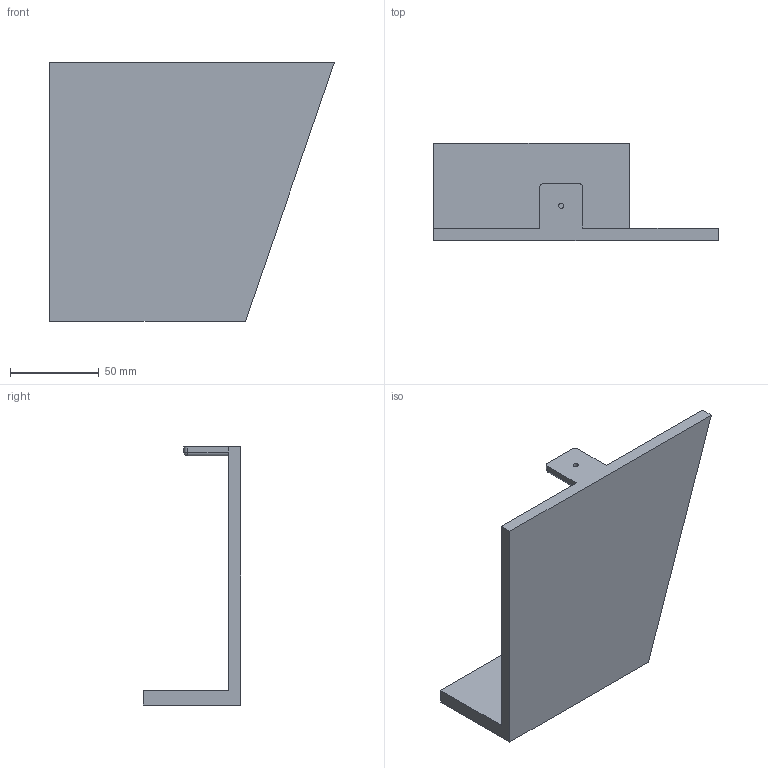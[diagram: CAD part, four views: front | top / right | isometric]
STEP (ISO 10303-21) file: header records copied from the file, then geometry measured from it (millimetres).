
FILE_DESCRIPTION(/* description */ (''),/* implementation_level */ '2;1');
FILE_NAME(/* name */ 'Front FP2.4-1.stp',/* time_stamp */ '2025-10-17T11:23:07+05:00',/* author */ ('yrysz'),/* organization */ (''),/* preprocessor_version */ 'ST-DEVELOPER v20',/* originating_system */ 'Autodesk Inventor 2025',/* authorisation */ '');
FILE_SCHEMA (('AUTOMOTIVE_DESIGN { 1 0 10303 214 3 1 1 }'));
Length unit declared in the file: millimetre
Products named in the file (1): Front FP2.4-1
Bounding box: 160 x 55 x 145 mm (x, y, z)
Volume: 182164.8 mm3; surface area: 55865.1 mm2
Topology: 1 solids, 1 shells, 21 faces, 50 edges, 31 vertices
Faces by surface type: plane 13, cylinder 6, sphere 2
Full cylindrical faces by diameter (mm): 2.8 x1
Entity records: 647 total; most frequent: DIRECTION 106, CARTESIAN_POINT 103, ORIENTED_EDGE 100, EDGE_CURVE 50, LINE 38, VECTOR 38, AXIS2_PLACEMENT_3D 34, VERTEX_POINT 31
